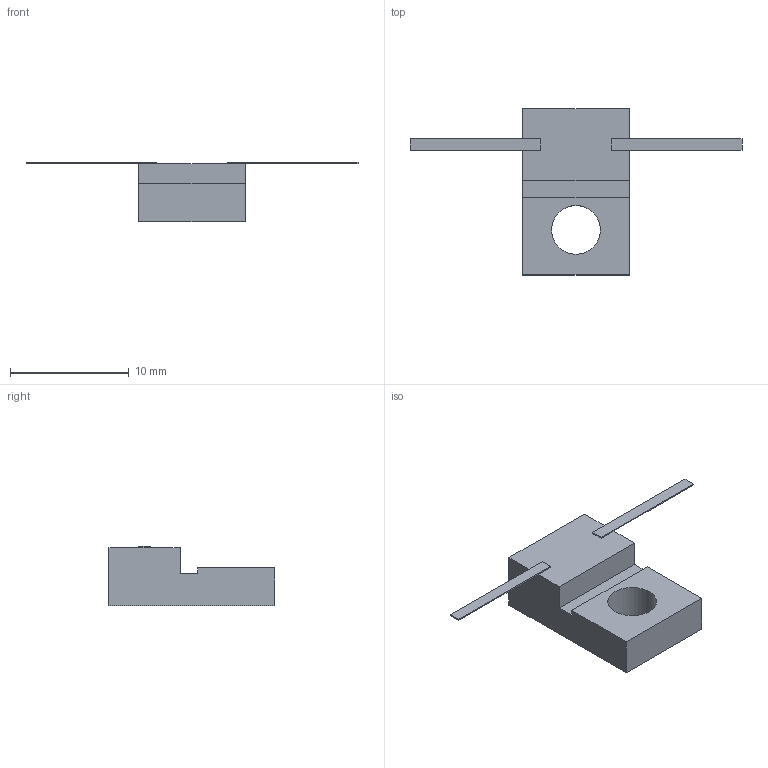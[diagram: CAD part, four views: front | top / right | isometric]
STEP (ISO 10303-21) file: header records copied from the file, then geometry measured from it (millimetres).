
FILE_DESCRIPTION(('STEP AP203'), '1');
FILE_NAME('Ð1-87-75', '', ('UNSPECIFIED'), ('UNSPECIFIED'), 'ASCON STEP Converter 1.6', 'ASCON Math Kernel', '');
FILE_SCHEMA(('CONFIG_CONTROL_DESIGN'));
Length unit declared in the file: millimetre
Bounding box: 28 x 14 x 5 mm (x, y, z)
Volume: 448.2 mm3; surface area: 553.3 mm2
Topology: 1 solids, 2 shells, 42 faces, 110 edges, 72 vertices
Faces by surface type: plane 37, cylinder 5
Full cylindrical faces by diameter (mm): 4.1 x1
Entity records: 1653 total; most frequent: CARTESIAN_POINT 224, ORIENTED_EDGE 218, DIRECTION 205, EDGE_CURVE 109, LINE 99, VECTOR 99, VERTEX_POINT 72, AXIS2_PLACEMENT_3D 53
